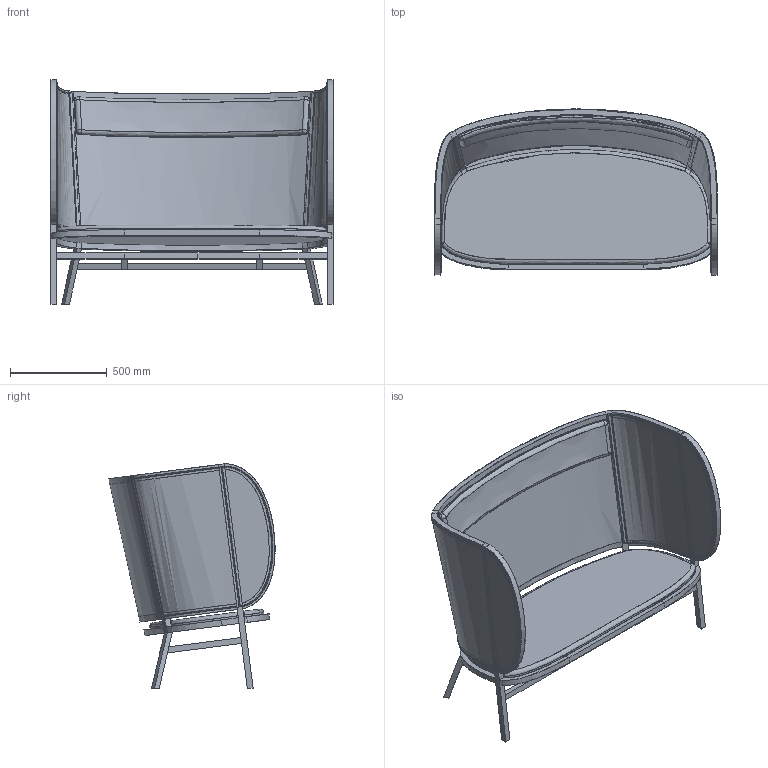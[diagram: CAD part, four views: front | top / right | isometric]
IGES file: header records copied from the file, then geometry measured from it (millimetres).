
Global section: file name: \\192.168.4.99\ufficio_tecnico\02 - PRODOTTI IN PRODUZIONE\12 - HIDEOUT\03 - DISEGNI 3D\hideout love seat.igs; native system: Rhinoceros ( May 22 2017 ); preprocessor: Trout Lake IGES 012 May 22 2017; date: 180302.164858; units: centimetre
Bounding box: 1465.98 x 859.48 x 1160.52 mm (x, y, z)
Surface area: 9761512.9 mm2 (no closed solid volume)
Topology: 0 solids, 0 shells, 365 faces, 3136 edges, 3102 vertices
Faces by surface type: bspline 365
